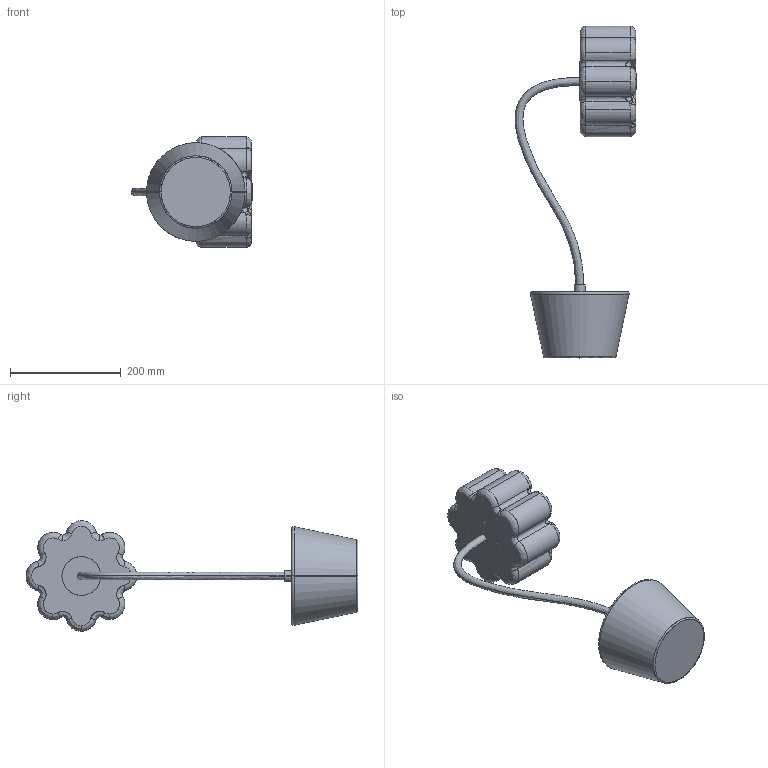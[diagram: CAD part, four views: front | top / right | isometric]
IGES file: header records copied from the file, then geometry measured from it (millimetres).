
Start section: SolidWorks IGES file using analytic representation for surfaces
Global section: file name: C:\Users\Agustin\Desktop\ENERO 2025\2D-3D\2D-3D FLOW_S1339\FLOW_S1339.IGS; native system: SolidWorks 2018; preprocessor: SolidWorks 2018; author: Agustin; date: 250117.134751; units: millimetre
Bounding box: 219.63 x 600 x 200 mm (x, y, z)
Surface area: 247483.4 mm2 (no closed solid volume)
Topology: 0 solids, 0 shells, 169 faces, 2137 edges, 2125 vertices
Faces by surface type: bspline 106, revolution 63
